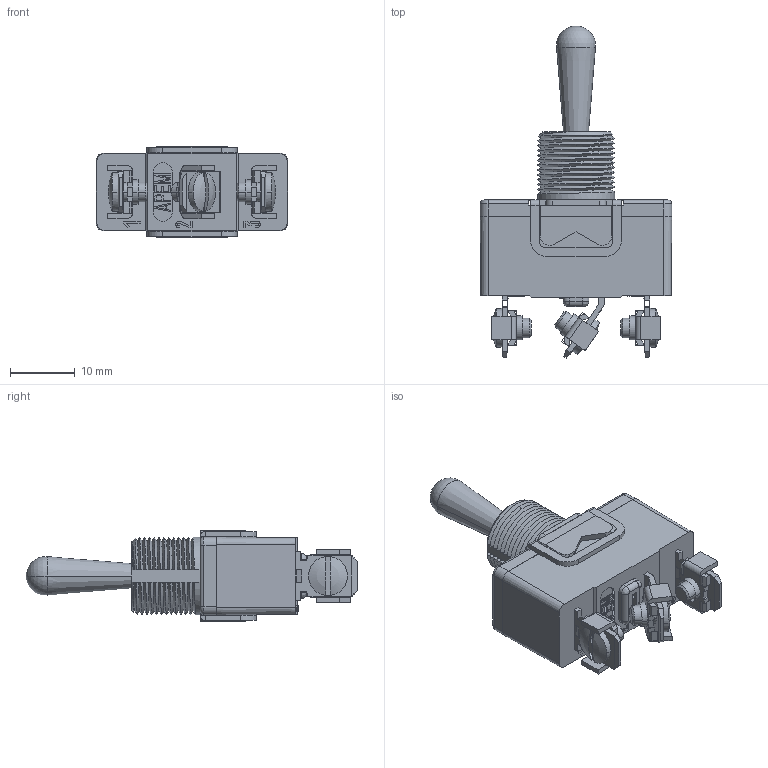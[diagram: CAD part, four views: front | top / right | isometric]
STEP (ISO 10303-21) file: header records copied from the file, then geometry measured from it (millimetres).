
FILE_DESCRIPTION((''),'2;1');
FILE_NAME('639H_SW0002','2010-10-11T',('jlgachon'),(''),'PRO/ENGINEER BY PARAMETRIC TECHNOLOGY CORPORATION, 2009440','PRO/ENGINEER BY PARAMETRIC TECHNOLOGY CORPORATION, 2009440','');
FILE_SCHEMA(('CONFIG_CONTROL_DESIGN'));
Length unit declared in the file: millimetre
Products named in the file (1): 639H_SW0002
Bounding box: 29.5 x 51.12 x 14 mm (x, y, z)
Surface area: 4533.1 mm2 (no closed solid volume)
Topology: 0 solids, 33 shells, 365 faces, 1418 edges, 1071 vertices
Faces by surface type: plane 225, cylinder 72, bspline 36, cone 16, sphere 12, torus 4
Entity records: 32571 total; most frequent: CARTESIAN_POINT 21105, DIRECTION 2234, ORIENTED_EDGE 2105, EDGE_CURVE 1416, VERTEX_POINT 1071, VECTOR 1036, LINE 1036, AXIS2_PLACEMENT_3D 599
